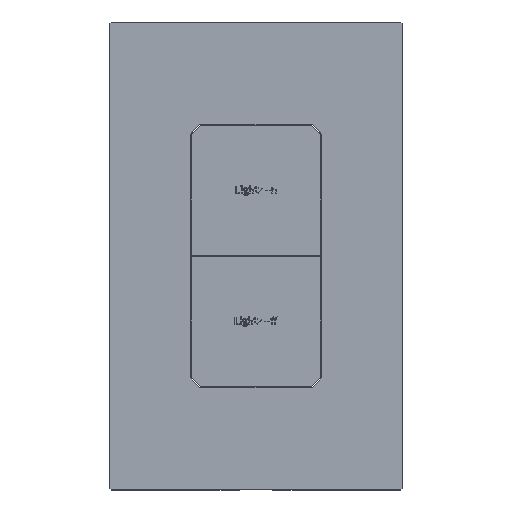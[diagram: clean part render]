
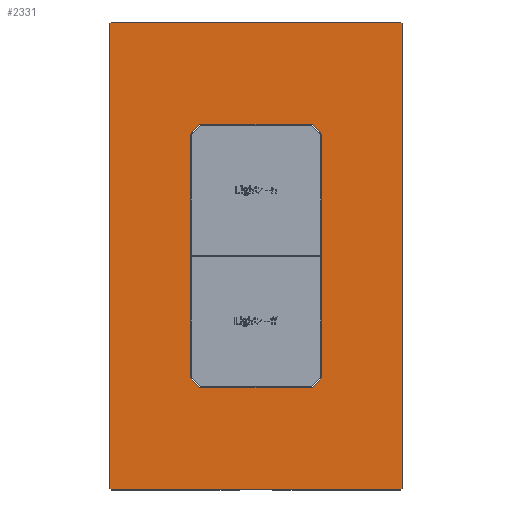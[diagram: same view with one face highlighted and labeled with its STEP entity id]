
A CAD part, top view. The second image highlights one B-rep face of the part: STEP entity #2331.
In plain terms, the highlighted planar face has unit normal (0, 0, 1).
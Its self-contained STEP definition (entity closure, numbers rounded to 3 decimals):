
#420=(
BOUNDED_CURVE()
B_SPLINE_CURVE(2,(#34404,#34405,#34406),.UNSPECIFIED.,.F.,.F.)
B_SPLINE_CURVE_WITH_KNOTS((3,3),(0.,3.75),.UNSPECIFIED.)
CURVE()
GEOMETRIC_REPRESENTATION_ITEM()
RATIONAL_B_SPLINE_CURVE((1.,0.707,1.))
REPRESENTATION_ITEM('')
);
#422=(
BOUNDED_CURVE()
B_SPLINE_CURVE(2,(#34416,#34417,#34418),.UNSPECIFIED.,.F.,.F.)
B_SPLINE_CURVE_WITH_KNOTS((3,3),(0.,3.75),.UNSPECIFIED.)
CURVE()
GEOMETRIC_REPRESENTATION_ITEM()
RATIONAL_B_SPLINE_CURVE((1.,0.707,1.))
REPRESENTATION_ITEM('')
);
#424=(
BOUNDED_CURVE()
B_SPLINE_CURVE(2,(#34428,#34429,#34430),.UNSPECIFIED.,.F.,.F.)
B_SPLINE_CURVE_WITH_KNOTS((3,3),(0.,3.75),.UNSPECIFIED.)
CURVE()
GEOMETRIC_REPRESENTATION_ITEM()
RATIONAL_B_SPLINE_CURVE((1.,0.707,1.))
REPRESENTATION_ITEM('')
);
#426=(
BOUNDED_CURVE()
B_SPLINE_CURVE(2,(#34440,#34441,#34442),.UNSPECIFIED.,.F.,.F.)
B_SPLINE_CURVE_WITH_KNOTS((3,3),(0.,3.75),.UNSPECIFIED.)
CURVE()
GEOMETRIC_REPRESENTATION_ITEM()
RATIONAL_B_SPLINE_CURVE((1.,0.707,1.))
REPRESENTATION_ITEM('')
);
#427=(
BOUNDED_CURVE()
B_SPLINE_CURVE(2,(#34491,#34492,#34493),.UNSPECIFIED.,.F.,.F.)
B_SPLINE_CURVE_WITH_KNOTS((3,3),(-0.628,0.),.UNSPECIFIED.)
CURVE()
GEOMETRIC_REPRESENTATION_ITEM()
RATIONAL_B_SPLINE_CURVE((1.,0.707,1.))
REPRESENTATION_ITEM('')
);
#428=(
BOUNDED_CURVE()
B_SPLINE_CURVE(2,(#34500,#34501,#34502),.UNSPECIFIED.,.F.,.F.)
B_SPLINE_CURVE_WITH_KNOTS((3,3),(-0.628,0.),.UNSPECIFIED.)
CURVE()
GEOMETRIC_REPRESENTATION_ITEM()
RATIONAL_B_SPLINE_CURVE((1.,0.707,1.))
REPRESENTATION_ITEM('')
);
#429=(
BOUNDED_CURVE()
B_SPLINE_CURVE(2,(#34507,#34508,#34509),.UNSPECIFIED.,.F.,.F.)
B_SPLINE_CURVE_WITH_KNOTS((3,3),(-0.628,0.),.UNSPECIFIED.)
CURVE()
GEOMETRIC_REPRESENTATION_ITEM()
RATIONAL_B_SPLINE_CURVE((1.,0.707,1.))
REPRESENTATION_ITEM('')
);
#430=(
BOUNDED_CURVE()
B_SPLINE_CURVE(2,(#34514,#34515,#34516),.UNSPECIFIED.,.F.,.F.)
B_SPLINE_CURVE_WITH_KNOTS((3,3),(-0.628,0.),.UNSPECIFIED.)
CURVE()
GEOMETRIC_REPRESENTATION_ITEM()
RATIONAL_B_SPLINE_CURVE((1.,0.707,1.))
REPRESENTATION_ITEM('')
);
#2331=ADVANCED_FACE('',(#3591,#2882),#20391,.T.);
#2882=FACE_BOUND('',#4839,.T.);
#3591=FACE_OUTER_BOUND('',#4838,.T.);
#4838=EDGE_LOOP('',(#9066,#9067,#9068,#9069,#9070,#9071,#9072,#9073));
#4839=EDGE_LOOP('',(#9074,#9075,#9076,#9077,#9078,#9079,#9080,#9081));
#9066=ORIENTED_EDGE('',*,*,#13761,.F.);
#9067=ORIENTED_EDGE('',*,*,#13701,.F.);
#9068=ORIENTED_EDGE('',*,*,#13755,.F.);
#9069=ORIENTED_EDGE('',*,*,#13702,.F.);
#9070=ORIENTED_EDGE('',*,*,#13751,.F.);
#9071=ORIENTED_EDGE('',*,*,#13703,.F.);
#9072=ORIENTED_EDGE('',*,*,#13758,.F.);
#9073=ORIENTED_EDGE('',*,*,#13700,.F.);
#9074=ORIENTED_EDGE('',*,*,#13704,.F.);
#9075=ORIENTED_EDGE('',*,*,#13711,.F.);
#9076=ORIENTED_EDGE('',*,*,#13705,.F.);
#9077=ORIENTED_EDGE('',*,*,#13716,.F.);
#9078=ORIENTED_EDGE('',*,*,#13706,.F.);
#9079=ORIENTED_EDGE('',*,*,#13721,.F.);
#9080=ORIENTED_EDGE('',*,*,#13707,.F.);
#9081=ORIENTED_EDGE('',*,*,#13726,.F.);
#13700=EDGE_CURVE('',#18999,#19000,#16597,.T.);
#13701=EDGE_CURVE('',#19002,#19001,#16598,.T.);
#13702=EDGE_CURVE('',#19004,#19003,#16599,.T.);
#13703=EDGE_CURVE('',#19006,#19005,#16600,.T.);
#13704=EDGE_CURVE('',#19007,#19008,#16601,.T.);
#13705=EDGE_CURVE('',#19010,#19009,#16602,.T.);
#13706=EDGE_CURVE('',#19012,#19011,#16603,.T.);
#13707=EDGE_CURVE('',#19014,#19013,#16604,.T.);
#13711=EDGE_CURVE('',#19009,#19007,#420,.T.);
#13716=EDGE_CURVE('',#19011,#19010,#422,.T.);
#13721=EDGE_CURVE('',#19013,#19012,#424,.T.);
#13726=EDGE_CURVE('',#19008,#19014,#426,.T.);
#13751=EDGE_CURVE('',#19005,#19004,#427,.T.);
#13755=EDGE_CURVE('',#19003,#19002,#428,.T.);
#13758=EDGE_CURVE('',#19000,#19006,#429,.T.);
#13761=EDGE_CURVE('',#19001,#18999,#430,.T.);
#16597=B_SPLINE_CURVE_WITH_KNOTS('',1,(#34381,#34382),.UNSPECIFIED.,.F.,
 .F.,(2,2),(-118.,0.),.UNSPECIFIED.);
#16598=B_SPLINE_CURVE_WITH_KNOTS('',1,(#34383,#34384),.UNSPECIFIED.,.F.,
 .F.,(2,2),(-73.5,0.),.UNSPECIFIED.);
#16599=B_SPLINE_CURVE_WITH_KNOTS('',1,(#34385,#34386),.UNSPECIFIED.,.F.,
 .F.,(2,2),(-118.,0.),.UNSPECIFIED.);
#16600=B_SPLINE_CURVE_WITH_KNOTS('',1,(#34387,#34388),.UNSPECIFIED.,.F.,
 .F.,(2,2),(-73.5,0.),.UNSPECIFIED.);
#16601=B_SPLINE_CURVE_WITH_KNOTS('',1,(#34389,#34390),.UNSPECIFIED.,.F.,
 .F.,(2,2),(0.,62.027),.UNSPECIFIED.);
#16602=B_SPLINE_CURVE_WITH_KNOTS('',1,(#34391,#34392),.UNSPECIFIED.,.F.,
 .F.,(2,2),(0.,28.499),.UNSPECIFIED.);
#16603=B_SPLINE_CURVE_WITH_KNOTS('',1,(#34393,#34394),.UNSPECIFIED.,.F.,
 .F.,(2,2),(0.,62.027),.UNSPECIFIED.);
#16604=B_SPLINE_CURVE_WITH_KNOTS('',1,(#34395,#34396),.UNSPECIFIED.,.F.,
 .F.,(2,2),(0.,28.499),.UNSPECIFIED.);
#18999=VERTEX_POINT('',#34249);
#19000=VERTEX_POINT('',#34250);
#19001=VERTEX_POINT('',#34251);
#19002=VERTEX_POINT('',#34252);
#19003=VERTEX_POINT('',#34253);
#19004=VERTEX_POINT('',#34254);
#19005=VERTEX_POINT('',#34255);
#19006=VERTEX_POINT('',#34256);
#19007=VERTEX_POINT('',#34257);
#19008=VERTEX_POINT('',#34258);
#19009=VERTEX_POINT('',#34259);
#19010=VERTEX_POINT('',#34260);
#19011=VERTEX_POINT('',#34261);
#19012=VERTEX_POINT('',#34262);
#19013=VERTEX_POINT('',#34263);
#19014=VERTEX_POINT('',#34264);
#20391=PLANE('',#20904);
#20904=AXIS2_PLACEMENT_3D('',#33916,#21493,$);
#21493=DIRECTION('',(0.,0.,1.));
#33916=CARTESIAN_POINT('',(131.418,-71.992,4.964));
#34249=CARTESIAN_POINT('',(48.976,-59.,4.964));
#34250=CARTESIAN_POINT('',(48.976,59.,4.964));
#34251=CARTESIAN_POINT('',(49.376,-59.4,4.964));
#34252=CARTESIAN_POINT('',(122.876,-59.4,4.964));
#34253=CARTESIAN_POINT('',(123.276,-59.,4.964));
#34254=CARTESIAN_POINT('',(123.276,59.,4.964));
#34255=CARTESIAN_POINT('',(122.876,59.4,4.964));
#34256=CARTESIAN_POINT('',(49.376,59.4,4.964));
#34257=CARTESIAN_POINT('',(69.489,31.013,4.964));
#34258=CARTESIAN_POINT('',(69.489,-31.013,4.964));
#34259=CARTESIAN_POINT('',(71.877,33.401,4.964));
#34260=CARTESIAN_POINT('',(100.376,33.401,4.964));
#34261=CARTESIAN_POINT('',(102.763,31.013,4.964));
#34262=CARTESIAN_POINT('',(102.763,-31.013,4.964));
#34263=CARTESIAN_POINT('',(100.376,-33.401,4.964));
#34264=CARTESIAN_POINT('',(71.877,-33.401,4.964));
#34381=CARTESIAN_POINT('',(48.976,-59.,4.964));
#34382=CARTESIAN_POINT('',(48.976,59.,4.964));
#34383=CARTESIAN_POINT('',(122.876,-59.4,4.964));
#34384=CARTESIAN_POINT('',(49.376,-59.4,4.964));
#34385=CARTESIAN_POINT('',(123.276,59.,4.964));
#34386=CARTESIAN_POINT('',(123.276,-59.,4.964));
#34387=CARTESIAN_POINT('',(49.376,59.4,4.964));
#34388=CARTESIAN_POINT('',(122.876,59.4,4.964));
#34389=CARTESIAN_POINT('',(69.489,31.013,4.964));
#34390=CARTESIAN_POINT('',(69.489,-31.013,4.964));
#34391=CARTESIAN_POINT('',(100.376,33.401,4.964));
#34392=CARTESIAN_POINT('',(71.877,33.401,4.964));
#34393=CARTESIAN_POINT('',(102.763,-31.013,4.964));
#34394=CARTESIAN_POINT('',(102.763,31.013,4.964));
#34395=CARTESIAN_POINT('',(71.877,-33.401,4.964));
#34396=CARTESIAN_POINT('',(100.376,-33.401,4.964));
#34404=CARTESIAN_POINT('',(71.877,33.401,4.964));
#34405=CARTESIAN_POINT('',(69.489,33.401,4.964));
#34406=CARTESIAN_POINT('',(69.489,31.013,4.964));
#34416=CARTESIAN_POINT('',(102.763,31.013,4.964));
#34417=CARTESIAN_POINT('',(102.763,33.401,4.964));
#34418=CARTESIAN_POINT('',(100.376,33.401,4.964));
#34428=CARTESIAN_POINT('',(100.376,-33.401,4.964));
#34429=CARTESIAN_POINT('',(102.763,-33.401,4.964));
#34430=CARTESIAN_POINT('',(102.763,-31.013,4.964));
#34440=CARTESIAN_POINT('',(69.489,-31.013,4.964));
#34441=CARTESIAN_POINT('',(69.489,-33.401,4.964));
#34442=CARTESIAN_POINT('',(71.877,-33.401,4.964));
#34491=CARTESIAN_POINT('',(122.876,59.4,4.964));
#34492=CARTESIAN_POINT('',(123.276,59.4,4.964));
#34493=CARTESIAN_POINT('',(123.276,59.,4.964));
#34500=CARTESIAN_POINT('',(123.276,-59.,4.964));
#34501=CARTESIAN_POINT('',(123.276,-59.4,4.964));
#34502=CARTESIAN_POINT('',(122.876,-59.4,4.964));
#34507=CARTESIAN_POINT('',(48.976,59.,4.964));
#34508=CARTESIAN_POINT('',(48.976,59.4,4.964));
#34509=CARTESIAN_POINT('',(49.376,59.4,4.964));
#34514=CARTESIAN_POINT('',(49.376,-59.4,4.964));
#34515=CARTESIAN_POINT('',(48.976,-59.4,4.964));
#34516=CARTESIAN_POINT('',(48.976,-59.,4.964));
